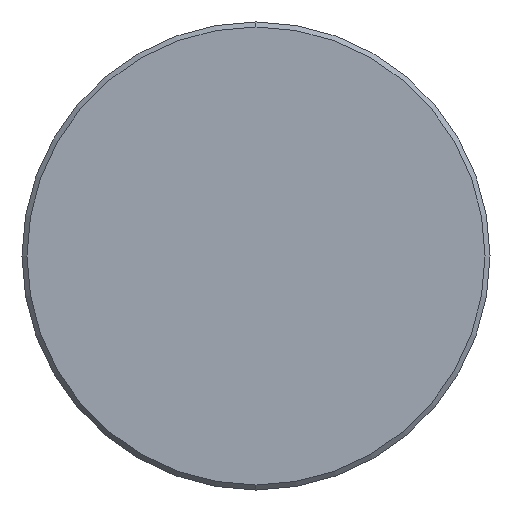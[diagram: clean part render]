
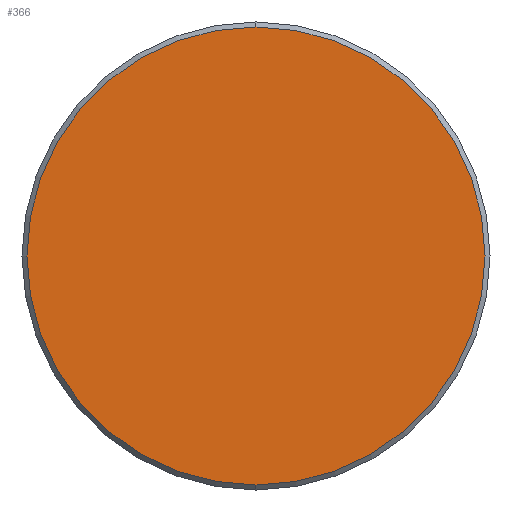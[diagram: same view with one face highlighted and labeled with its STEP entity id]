
A CAD part, left-side view. The second image highlights one B-rep face of the part: STEP entity #366.
In plain terms, the highlighted planar face has unit normal (-1, 0, 0).
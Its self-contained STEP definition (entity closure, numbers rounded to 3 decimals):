
#77 = VERTEX_POINT ( 'NONE', #402 ) ;
#114 = DIRECTION ( 'NONE',  ( 1., 0., 0. ) ) ;
#126 = CARTESIAN_POINT ( 'NONE',  ( 127.282, 47.323, -23. ) ) ;
#178 = DIRECTION ( 'NONE',  ( 0., 0., -1. ) ) ;
#231 = ORIENTED_EDGE ( 'NONE', *, *, #716, .F. ) ;
#279 = AXIS2_PLACEMENT_3D ( 'NONE', #855, #535, #178 ) ;
#366 = ADVANCED_FACE ( 'NONE', ( #913 ), #1066, .T. ) ;
#402 = CARTESIAN_POINT ( 'NONE',  ( 127.282, 47.323, 23. ) ) ;
#434 = CIRCLE ( 'NONE', #1175, 23. ) ;
#442 = EDGE_CURVE ( 'NONE', #750, #77, #962, .T. ) ;
#513 = DIRECTION ( 'NONE',  ( -1., 0., 0. ) ) ;
#535 = DIRECTION ( 'NONE',  ( 1., 0., 0. ) ) ;
#690 = ORIENTED_EDGE ( 'NONE', *, *, #442, .F. ) ;
#716 = EDGE_CURVE ( 'NONE', #77, #750, #434, .T. ) ;
#741 = CARTESIAN_POINT ( 'NONE',  ( 127.282, 47.323, 0. ) ) ;
#750 = VERTEX_POINT ( 'NONE', #126 ) ;
#855 = CARTESIAN_POINT ( 'NONE',  ( 127.282, 47.323, 0. ) ) ;
#911 = DIRECTION ( 'NONE',  ( 0., 0., -1. ) ) ;
#913 = FACE_OUTER_BOUND ( 'NONE', #925, .T. ) ;
#925 = EDGE_LOOP ( 'NONE', ( #690, #231 ) ) ;
#962 = CIRCLE ( 'NONE', #279, 23. ) ;
#1066 = PLANE ( 'NONE',  #1443 ) ;
#1132 = CARTESIAN_POINT ( 'NONE',  ( 127.282, 47.323, 0. ) ) ;
#1173 = DIRECTION ( 'NONE',  ( 0., 0., 1. ) ) ;
#1175 = AXIS2_PLACEMENT_3D ( 'NONE', #1132, #114, #911 ) ;
#1443 = AXIS2_PLACEMENT_3D ( 'NONE', #741, #513, #1173 ) ;
